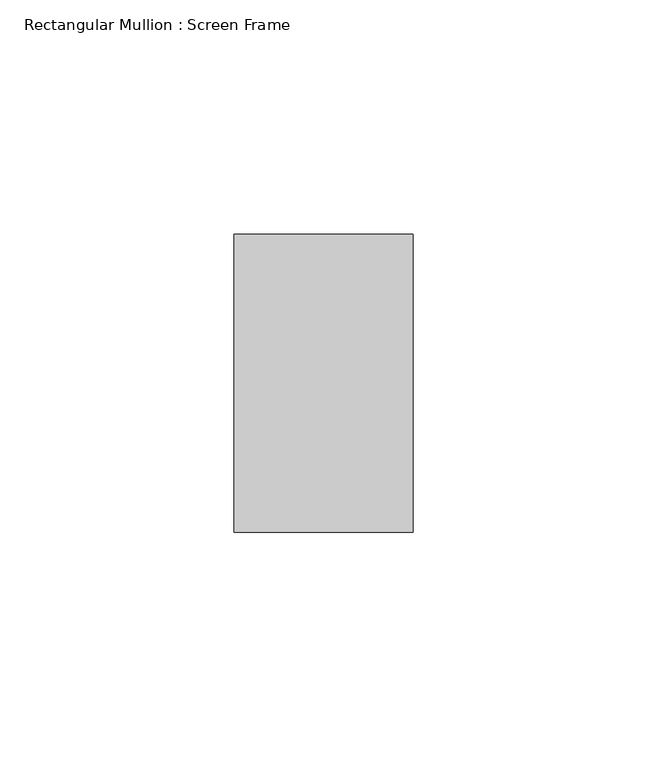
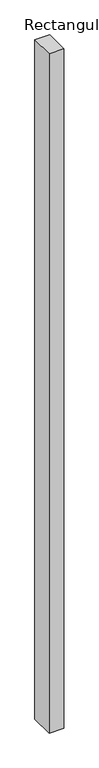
"""IFC4 building model written with IfcOpenShell, lengths in millimetres: member geometry, Rectangular Mullion : Screen Frame."""

from ifc_helpers import new_model, si_unit, frame, origin, place, context, project, spatial, polyline, outline, extrude, source, transform, mapped, element, save


def rectangular_mullion_screen_frame_7cee8ea0(model_context):
    return source(origin(), model_context, "Body", "SweptSolid", [
        extrude(outline(polyline([(19.05, 31.75), (19.05, -31.75), (-19.05, -31.75), (-19.05, 31.75), (19.05, 31.75)])), frame((0.0, 0.0, -1858.5688), z_axis=(0.0, 0.0, 1.0), x_axis=(1.0, 0.0, 0.0)), (0.0, 0.0, 1.0), 1858.5688),
    ])


if __name__ == "__main__":
    model = new_model("IFC4")
    model_context = context("Model", 3, world=origin())
    ifc_project = project(units=[si_unit("LENGTHUNIT", "METRE", prefix="MILLI")], contexts=[model_context])
    site = spatial("IfcSite", under=ifc_project)
    building = spatial("IfcBuilding", under=site)
    placement = place(None, origin())
    rectangular_mullion_screen_frame_shape = rectangular_mullion_screen_frame_7cee8ea0(model_context)
    element("IfcMember", 1, ObjectType="Rectangular Mullion : Screen Frame", at=placement, inside=building, context=model_context, shape_type="MappedRepresentation", body=[
        mapped(rectangular_mullion_screen_frame_shape, transform((0.0, 0.0, 0.0), x_axis=(1.0, 0.0, 0.0), y_axis=(0.0, 1.0, 0.0), z_axis=(0.0, 0.0, 1.0))),
    ])
    save(model, "model.ifc")
